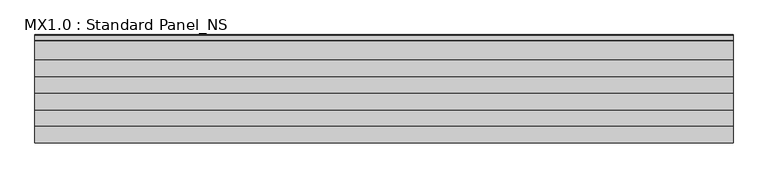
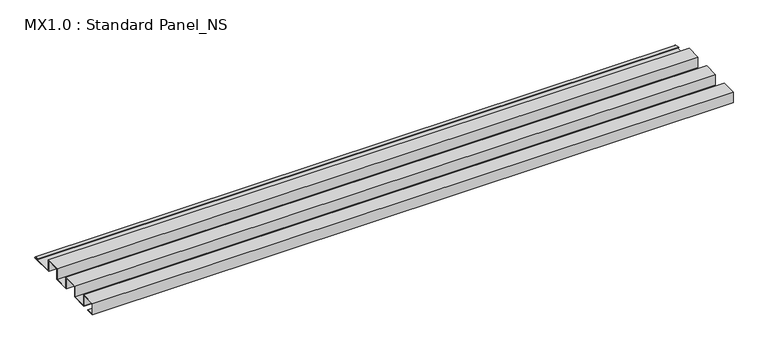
"""IFC4 building model written with IfcOpenShell, lengths in millimetres: proxy geometry, MX1.0 : Standard Panel_NS."""

from ifc_helpers import new_model, si_unit, point, frame, frame_2d, origin, place, context, project, spatial, polyline, circle_curve, trimmed, segment, composite_curve, outline, extrude, source, transform, mapped, element, save


def mx1_0_standard_panel_ns_afae810e(model_context):
    return source(origin(), model_context, "Body", "SweptSolid", [
        extrude(outline(composite_curve([segment(polyline([(0.0, 0.0), (0.0, 38.0), (50.0, 38.0), (50.0, 1.0), (100.0, 1.0), (100.0, 38.0), (150.0, 38.0), (150.0, 1.0), (200.0, 1.0), (200.0, 38.0), (250.0, 38.0), (250.0, 0.0), (324.8317866, 0.0)]), True, "CONTINUOUS"), segment(trimmed(circle_curve(frame_2d((324.3094696, 0.9153551)), 1.0538928), [point((324.8317866, 0.0))], [point((324.8448691, 1.8231201))], True, "CARTESIAN"), True, "CONTINUOUS"), segment(polyline([(324.8448691, 1.8231201), (308.5989911, 4.94103), (308.7874714, 5.923107), (325.1748462, 2.778041)]), True, "CONTINUOUS"), segment(trimmed(circle_curve(frame_2d((324.3094696, 0.9153551)), 2.0538928), [point((325.1748462, 2.778041))], [point((325.0510156, -1.0))], False, "CARTESIAN"), True, "CONTINUOUS"), segment(polyline([(325.0510156, -1.0), (249.0, -1.0), (249.0, 37.0), (201.0, 37.0), (201.0, 0.0), (149.0, 0.0), (149.0, 37.0), (101.0, 37.0), (101.0, 0.0), (49.0, 0.0), (49.0, 37.0), (1.0, 37.0), (1.0, 1.0), (25.0, 1.0), (25.0, 0.0), (0.0, 0.0)]), True, "CONTINUOUS")], self_intersect=False)), frame((0.0, 0.0, 0.0), z_axis=(1.0, 0.0, 0.0), x_axis=(0.0, 1.0, 0.0)), (0.0, 0.0, 1.0), 2100.0),
    ])


if __name__ == "__main__":
    model = new_model("IFC4")
    model_context = context("Model", 3, world=origin())
    ifc_project = project(units=[si_unit("LENGTHUNIT", "METRE", prefix="MILLI")], contexts=[model_context])
    site = spatial("IfcSite", under=ifc_project)
    building = spatial("IfcBuilding", under=site)
    placement = place(None, origin())
    mx1_0_standard_panel_ns_shape = mx1_0_standard_panel_ns_afae810e(model_context)
    element("IfcBuildingElementProxy", 1, Name="MX1.0 : Standard Panel_NS", ObjectType="MX1.0 : Standard Panel_NS", at=placement, inside=building, context=model_context, shape_type="MappedRepresentation", body=[
        mapped(mx1_0_standard_panel_ns_shape, transform((0.0, 0.0, 0.0), x_axis=(1.0, 0.0, 0.0), y_axis=(0.0, 1.0, 0.0), z_axis=(0.0, 0.0, 1.0))),
    ])
    save(model, "model.ifc")
